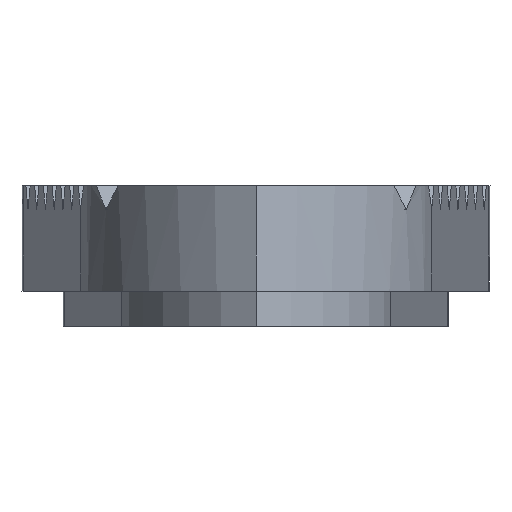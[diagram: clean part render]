
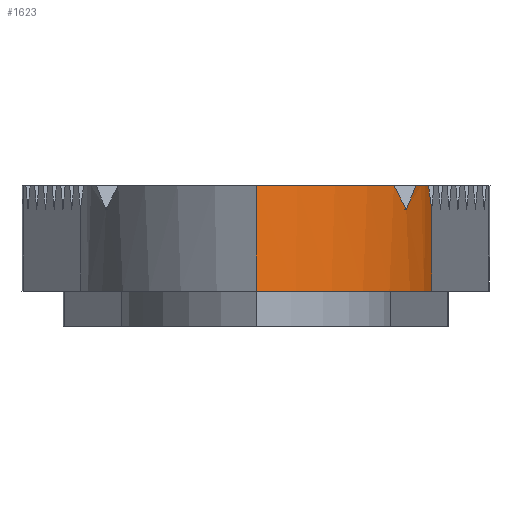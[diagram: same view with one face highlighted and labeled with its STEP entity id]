
A CAD part, front view. The second image highlights one B-rep face of the part: STEP entity #1623.
In plain terms, the highlighted cylindrical face has radius 23.899 mm (diameter 47.799 mm), a partial arc.
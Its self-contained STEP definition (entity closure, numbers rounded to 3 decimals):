
#8 = AXIS2_PLACEMENT_3D ( 'NONE', #2323, #106, #290 ) ;
#47 = DIRECTION ( 'NONE',  ( 1., 0., 0. ) ) ;
#54 = VERTEX_POINT ( 'NONE', #1125 ) ;
#56 = CARTESIAN_POINT ( 'NONE',  ( 12.51, -50.932, 17.183 ) ) ;
#63 = CYLINDRICAL_SURFACE ( 'NONE', #8, 23.9 ) ;
#106 = DIRECTION ( 'NONE',  ( 0., 0., -1. ) ) ;
#142 = VERTEX_POINT ( 'NONE', #482 ) ;
#187 = CARTESIAN_POINT ( 'NONE',  ( 14.939, -42.953, 17.204 ) ) ;
#209 = AXIS2_PLACEMENT_3D ( 'NONE', #1132, #1698, #47 ) ;
#219 = DIRECTION ( 'NONE',  ( 1., 0., 0. ) ) ;
#290 = DIRECTION ( 'NONE',  ( -1., 0., 0. ) ) ;
#300 = ORIENTED_EDGE ( 'NONE', *, *, #455, .T. ) ;
#302 = DIRECTION ( 'NONE',  ( 0., 0., -1. ) ) ;
#311 = CARTESIAN_POINT ( 'NONE',  ( 11.772, -52.249, 18.5 ) ) ;
#341 = CARTESIAN_POINT ( 'NONE',  ( 13.139, -49.595, 17.154 ) ) ;
#355 = CIRCLE ( 'NONE', #1970, 23.9 ) ;
#455 = EDGE_CURVE ( 'NONE', #142, #1774, #1479, .T. ) ;
#482 = CARTESIAN_POINT ( 'NONE',  ( 15., -42.3, 16.551 ) ) ;
#492 = EDGE_CURVE ( 'NONE', #498, #1233, #2282, .T. ) ;
#498 = VERTEX_POINT ( 'NONE', #1280 ) ;
#588 = DIRECTION ( 'NONE',  ( 0., 0., 1. ) ) ;
#661 = EDGE_CURVE ( 'NONE', #54, #1774, #771, .T. ) ;
#711 = ORIENTED_EDGE ( 'NONE', *, *, #2202, .T. ) ;
#721 = DIRECTION ( 'NONE',  ( 0., 0., -1. ) ) ;
#744 = DIRECTION ( 'NONE',  ( 0., 0., 1. ) ) ;
#752 = CARTESIAN_POINT ( 'NONE',  ( 14.737, -44.249, 18.5 ) ) ;
#771 = CIRCLE ( 'NONE', #209, 23.9 ) ;
#775 = CARTESIAN_POINT ( 'NONE',  ( 14.737, -44.249, 18.5 ) ) ;
#815 = EDGE_CURVE ( 'NONE', #142, #2255, #1056, .T. ) ;
#861 = ORIENTED_EDGE ( 'NONE', *, *, #815, .F. ) ;
#870 = CARTESIAN_POINT ( 'NONE',  ( 13.416, -48.928, 17.821 ) ) ;
#891 = EDGE_LOOP ( 'NONE', ( #861, #300, #1686, #1474, #711, #1193, #2068, #949 ) ) ;
#914 = CARTESIAN_POINT ( 'NONE',  ( -8.796, -40.078, 9.5 ) ) ;
#917 = CARTESIAN_POINT ( 'NONE',  ( 15., -42.3, 16.551 ) ) ;
#949 = ORIENTED_EDGE ( 'NONE', *, *, #2402, .T. ) ;
#980 = AXIS2_PLACEMENT_3D ( 'NONE', #1466, #588, #219 ) ;
#1056 = LINE ( 'NONE', #1997, #1993 ) ;
#1084 = DIRECTION ( 'NONE',  ( 1., 0., 0. ) ) ;
#1125 = CARTESIAN_POINT ( 'NONE',  ( 13.663, -48.249, 18.5 ) ) ;
#1132 = CARTESIAN_POINT ( 'NONE',  ( -8.796, -40.078, 18.5 ) ) ;
#1148 = CARTESIAN_POINT ( 'NONE',  ( 11.772, -52.249, 18.5 ) ) ;
#1193 = ORIENTED_EDGE ( 'NONE', *, *, #492, .F. ) ;
#1233 = VERTEX_POINT ( 'NONE', #311 ) ;
#1280 = CARTESIAN_POINT ( 'NONE',  ( 0., -62.3, 18.5 ) ) ;
#1288 =( BOUNDED_CURVE ( )  B_SPLINE_CURVE ( 3, ( #1619, #870, #341, #1605 ),
 .UNSPECIFIED., .F., .F. ) 
 B_SPLINE_CURVE_WITH_KNOTS ( ( 4, 4 ),
 ( 5.061, 5.152 ),
 .UNSPECIFIED. ) 
 CURVE ( )  GEOMETRIC_REPRESENTATION_ITEM ( )  RATIONAL_B_SPLINE_CURVE ( ( 1., 0.999, 0.999, 1. ) ) 
 REPRESENTATION_ITEM ( '' )  );
#1319 = EDGE_CURVE ( 'NONE', #54, #2057, #1288, .T. ) ;
#1466 = CARTESIAN_POINT ( 'NONE',  ( -8.796, -40.078, 18.5 ) ) ;
#1474 = ORIENTED_EDGE ( 'NONE', *, *, #1319, .T. ) ;
#1479 =( BOUNDED_CURVE ( )  B_SPLINE_CURVE ( 3, ( #917, #187, #1830, #775 ),
 .UNSPECIFIED., .F., .F. ) 
 B_SPLINE_CURVE_WITH_KNOTS ( ( 4, 4 ),
 ( 1.664, 1.746 ),
 .UNSPECIFIED. ) 
 CURVE ( )  GEOMETRIC_REPRESENTATION_ITEM ( )  RATIONAL_B_SPLINE_CURVE ( ( 1., 0.999, 0.999, 1. ) ) 
 REPRESENTATION_ITEM ( '' )  );
#1519 = VECTOR ( 'NONE', #302, 1000. ) ;
#1544 = CARTESIAN_POINT ( 'NONE',  ( 12.831, -50.249, 16.5 ) ) ;
#1605 = CARTESIAN_POINT ( 'NONE',  ( 12.831, -50.249, 16.5 ) ) ;
#1619 = CARTESIAN_POINT ( 'NONE',  ( 13.663, -48.249, 18.5 ) ) ;
#1623 = ADVANCED_FACE ( 'NONE', ( #1926 ), #63, .T. ) ;
#1653 = VERTEX_POINT ( 'NONE', #1952 ) ;
#1686 = ORIENTED_EDGE ( 'NONE', *, *, #661, .F. ) ;
#1698 = DIRECTION ( 'NONE',  ( 0., 0., 1. ) ) ;
#1737 = CARTESIAN_POINT ( 'NONE',  ( 15., -42.3, 9.5 ) ) ;
#1762 = CARTESIAN_POINT ( 'NONE',  ( 0., -62.3, 18.5 ) ) ;
#1774 = VERTEX_POINT ( 'NONE', #752 ) ;
#1830 = CARTESIAN_POINT ( 'NONE',  ( 14.851, -43.603, 17.854 ) ) ;
#1926 = FACE_OUTER_BOUND ( 'NONE', #891, .T. ) ;
#1952 = CARTESIAN_POINT ( 'NONE',  ( 0., -62.3, 9.5 ) ) ;
#1970 = AXIS2_PLACEMENT_3D ( 'NONE', #914, #744, #1084 ) ;
#1993 = VECTOR ( 'NONE', #721, 1000. ) ;
#1997 = CARTESIAN_POINT ( 'NONE',  ( 15., -42.3, 18.5 ) ) ;
#2038 = EDGE_CURVE ( 'NONE', #498, #1653, #2238, .T. ) ;
#2057 = VERTEX_POINT ( 'NONE', #1544 ) ;
#2068 = ORIENTED_EDGE ( 'NONE', *, *, #2038, .T. ) ;
#2077 = CARTESIAN_POINT ( 'NONE',  ( 12.157, -51.599, 17.85 ) ) ;
#2202 = EDGE_CURVE ( 'NONE', #2057, #1233, #2328, .T. ) ;
#2238 = LINE ( 'NONE', #1762, #1519 ) ;
#2255 = VERTEX_POINT ( 'NONE', #1737 ) ;
#2257 = CARTESIAN_POINT ( 'NONE',  ( 12.831, -50.249, 16.5 ) ) ;
#2282 = CIRCLE ( 'NONE', #980, 23.9 ) ;
#2323 = CARTESIAN_POINT ( 'NONE',  ( -8.796, -40.078, 18.5 ) ) ;
#2328 =( BOUNDED_CURVE ( )  B_SPLINE_CURVE ( 3, ( #2257, #56, #2077, #1148 ),
 .UNSPECIFIED., .F., .T. ) 
 B_SPLINE_CURVE_WITH_KNOTS ( ( 4, 4 ),
 ( 2.01, 2.105 ),
 .UNSPECIFIED. ) 
 CURVE ( )  GEOMETRIC_REPRESENTATION_ITEM ( )  RATIONAL_B_SPLINE_CURVE ( ( 1., 0.999, 0.999, 1. ) ) 
 REPRESENTATION_ITEM ( '' )  );
#2402 = EDGE_CURVE ( 'NONE', #1653, #2255, #355, .T. ) ;
